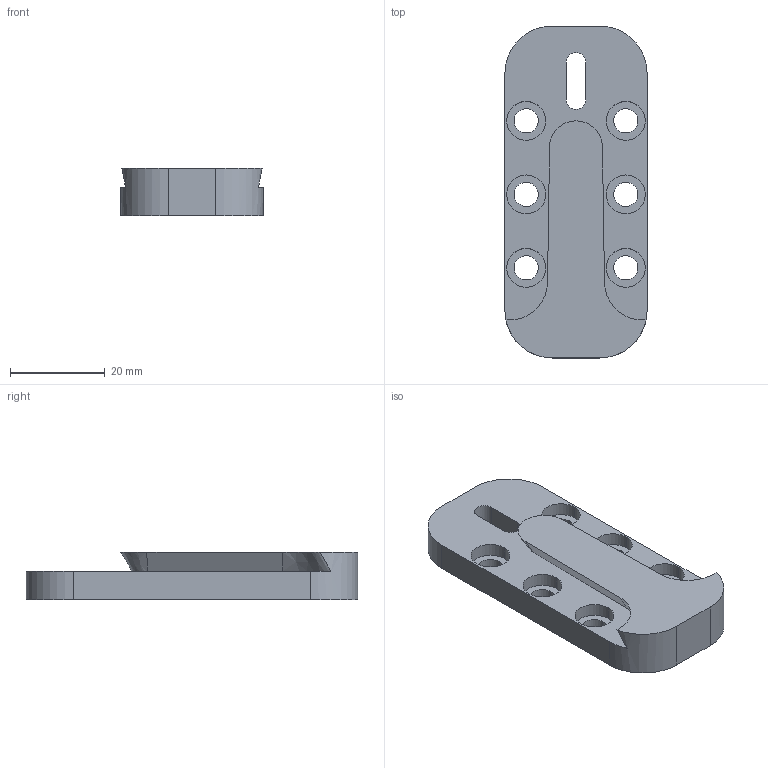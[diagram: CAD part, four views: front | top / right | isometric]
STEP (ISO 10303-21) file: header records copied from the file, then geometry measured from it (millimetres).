
FILE_DESCRIPTION (( 'STEP AP203' ), '1' );
FILE_NAME ('UV_20_HT_Holz_ohne_Maße.STEP', '2019-03-19T07:58:21', ( '' ), ( '' ), 'SwSTEP 2.0', 'SolidWorks 2013', '' );
FILE_SCHEMA (( 'CONFIG_CONTROL_DESIGN' ));
Length unit declared in the file: millimetre
Products named in the file (1): UV_20_HT_Holz_ohne_Ma絽
Bounding box: 30 x 70 x 10 mm (x, y, z)
Volume: 12856.3 mm3; surface area: 6535.9 mm2
Topology: 1 solids, 1 shells, 52 faces, 132 edges, 88 vertices
Faces by surface type: cylinder 30, plane 19, cone 3
Entity records: 1709 total; most frequent: DIRECTION 304, CARTESIAN_POINT 279, ORIENTED_EDGE 264, EDGE_CURVE 132, AXIS2_PLACEMENT_3D 121, VERTEX_POINT 88, EDGE_LOOP 72, CIRCLE 68
